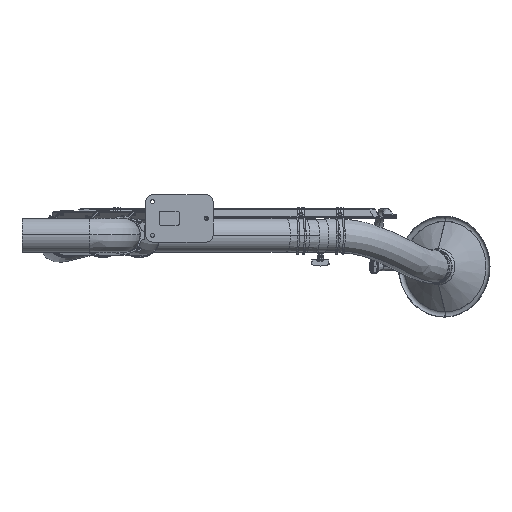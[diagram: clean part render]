
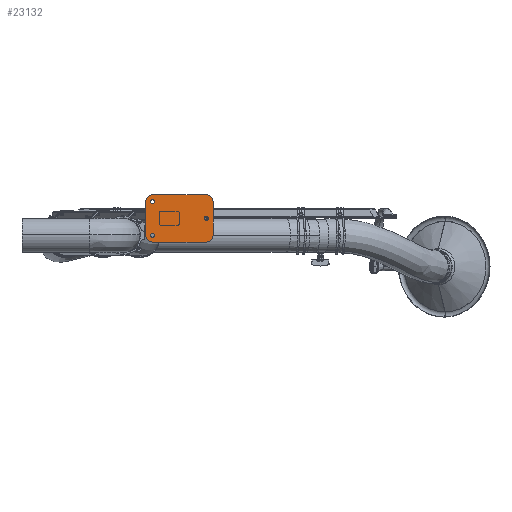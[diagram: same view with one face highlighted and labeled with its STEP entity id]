
A CAD part, left-side view. The second image highlights one B-rep face of the part: STEP entity #23132.
In plain terms, the highlighted planar face has unit normal (-1, 0, 0).
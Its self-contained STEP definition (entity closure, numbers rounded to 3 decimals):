
#22066=CARTESIAN_POINT('',(-400.,50.15,50.));
#22067=DIRECTION('',(-1.,0.,0.));
#22068=DIRECTION('',(0.,0.,1.));
#22069=AXIS2_PLACEMENT_3D('',#22066,#22067,#22068);
#22074=DIRECTION('',(0.,1.,0.));
#22075=VECTOR('',#22074,160.);
#22076=CARTESIAN_POINT('',(-400.,-109.85,70.));
#22077=LINE('',#22076,#22075);
#22081=CARTESIAN_POINT('',(-400.,-109.85,50.));
#22082=DIRECTION('',(-1.,0.,0.));
#22083=DIRECTION('',(0.,-1.,0.));
#22084=AXIS2_PLACEMENT_3D('',#22081,#22082,#22083);
#22089=DIRECTION('',(0.,0.,1.));
#22090=VECTOR('',#22089,100.);
#22091=CARTESIAN_POINT('',(-400.,-129.85,-50.));
#22092=LINE('',#22091,#22090);
#22096=CARTESIAN_POINT('',(-400.,-109.85,-50.));
#22097=DIRECTION('',(-1.,0.,0.));
#22098=DIRECTION('',(0.,0.,-1.));
#22099=AXIS2_PLACEMENT_3D('',#22096,#22097,#22098);
#22104=DIRECTION('',(0.,-1.,0.));
#22105=VECTOR('',#22104,160.);
#22106=CARTESIAN_POINT('',(-400.,50.15,-70.));
#22107=LINE('',#22106,#22105);
#22111=CARTESIAN_POINT('',(-400.,50.15,-50.));
#22112=DIRECTION('',(-1.,0.,0.));
#22113=DIRECTION('',(0.,1.,0.));
#22114=AXIS2_PLACEMENT_3D('',#22111,#22112,#22113);
#22119=DIRECTION('',(0.,0.,-1.));
#22120=VECTOR('',#22119,100.);
#22121=CARTESIAN_POINT('',(-400.,70.15,50.));
#22122=LINE('',#22121,#22120);
#22126=CARTESIAN_POINT('',(-400.,-109.85,0.));
#22127=DIRECTION('',(1.,0.,0.));
#22128=DIRECTION('',(0.,0.,1.));
#22129=AXIS2_PLACEMENT_3D('',#22126,#22127,#22128);
#22134=CARTESIAN_POINT('',(-400.,-109.85,0.));
#22135=DIRECTION('',(1.,0.,0.));
#22136=DIRECTION('',(0.,0.,-1.));
#22137=AXIS2_PLACEMENT_3D('',#22134,#22135,#22136);
#22142=CARTESIAN_POINT('',(-400.,50.15,50.));
#22143=DIRECTION('',(1.,0.,0.));
#22144=DIRECTION('',(0.,0.,1.));
#22145=AXIS2_PLACEMENT_3D('',#22142,#22143,#22144);
#22150=CARTESIAN_POINT('',(-400.,50.15,50.));
#22151=DIRECTION('',(1.,0.,0.));
#22152=DIRECTION('',(0.,0.,-1.));
#22153=AXIS2_PLACEMENT_3D('',#22150,#22151,#22152);
#22158=CARTESIAN_POINT('',(-400.,50.15,-50.));
#22159=DIRECTION('',(1.,0.,0.));
#22160=DIRECTION('',(0.,0.,1.));
#22161=AXIS2_PLACEMENT_3D('',#22158,#22159,#22160);
#22166=CARTESIAN_POINT('',(-400.,50.15,-50.));
#22167=DIRECTION('',(1.,0.,0.));
#22168=DIRECTION('',(0.,0.,-1.));
#22169=AXIS2_PLACEMENT_3D('',#22166,#22167,#22168);
#22551=CARTESIAN_POINT('',(-400.,50.15,-44.));
#22552=CARTESIAN_POINT('',(-400.,50.15,-56.));
#22553=VERTEX_POINT('',#22551);
#22554=VERTEX_POINT('',#22552);
#22555=CARTESIAN_POINT('',(-400.,50.15,56.));
#22556=CARTESIAN_POINT('',(-400.,50.15,44.));
#22557=VERTEX_POINT('',#22555);
#22558=VERTEX_POINT('',#22556);
#22559=CARTESIAN_POINT('',(-400.,-109.85,6.));
#22560=CARTESIAN_POINT('',(-400.,-109.85,-6.));
#22561=VERTEX_POINT('',#22559);
#22562=VERTEX_POINT('',#22560);
#22563=CARTESIAN_POINT('',(-400.,50.15,70.));
#22564=CARTESIAN_POINT('',(-400.,70.15,50.));
#22565=VERTEX_POINT('',#22563);
#22566=VERTEX_POINT('',#22564);
#22567=CARTESIAN_POINT('',(-400.,70.15,-50.));
#22568=VERTEX_POINT('',#22567);
#22569=CARTESIAN_POINT('',(-400.,50.15,-70.));
#22570=VERTEX_POINT('',#22569);
#22571=CARTESIAN_POINT('',(-400.,-109.85,-70.));
#22572=VERTEX_POINT('',#22571);
#22573=CARTESIAN_POINT('',(-400.,-129.85,-50.));
#22574=VERTEX_POINT('',#22573);
#22575=CARTESIAN_POINT('',(-400.,-129.85,50.));
#22576=VERTEX_POINT('',#22575);
#22577=CARTESIAN_POINT('',(-400.,-109.85,70.));
#22578=VERTEX_POINT('',#22577);
#23092=CARTESIAN_POINT('',(-400.,0.,-25.));
#23093=DIRECTION('',(-1.,0.,0.));
#23094=DIRECTION('',(0.,0.,1.));
#23095=AXIS2_PLACEMENT_3D('',#23092,#23093,#23094);
#23096=PLANE('',#23095);
#23097=ORIENTED_EDGE('',*,*,#23082,.F.);
#23099=ORIENTED_EDGE('',*,*,#23098,.F.);
#23101=ORIENTED_EDGE('',*,*,#23100,.F.);
#23103=ORIENTED_EDGE('',*,*,#23102,.F.);
#23105=ORIENTED_EDGE('',*,*,#23104,.F.);
#23107=ORIENTED_EDGE('',*,*,#23106,.F.);
#23109=ORIENTED_EDGE('',*,*,#23108,.F.);
#23111=ORIENTED_EDGE('',*,*,#23110,.F.);
#23112=EDGE_LOOP('',(#23097,#23099,#23101,#23103,#23105,#23107,#23109,#23111));
#23113=FACE_OUTER_BOUND('',#23112,.F.);
#23115=ORIENTED_EDGE('',*,*,#23114,.F.);
#23117=ORIENTED_EDGE('',*,*,#23116,.F.);
#23118=EDGE_LOOP('',(#23115,#23117));
#23119=FACE_BOUND('',#23118,.F.);
#23121=ORIENTED_EDGE('',*,*,#23120,.F.);
#23123=ORIENTED_EDGE('',*,*,#23122,.F.);
#23124=EDGE_LOOP('',(#23121,#23123));
#23125=FACE_BOUND('',#23124,.F.);
#23127=ORIENTED_EDGE('',*,*,#23126,.F.);
#23129=ORIENTED_EDGE('',*,*,#23128,.F.);
#23130=EDGE_LOOP('',(#23127,#23129));
#23131=FACE_BOUND('',#23130,.F.);
#22070=CIRCLE('',#22069,20.);
#22085=CIRCLE('',#22084,20.);
#22100=CIRCLE('',#22099,20.);
#22115=CIRCLE('',#22114,20.);
#22130=CIRCLE('',#22129,6.);
#22138=CIRCLE('',#22137,6.);
#22146=CIRCLE('',#22145,6.);
#22154=CIRCLE('',#22153,6.);
#22162=CIRCLE('',#22161,6.);
#22170=CIRCLE('',#22169,6.);
#23082=EDGE_CURVE('',#22565,#22566,#22070,.T.);
#23098=EDGE_CURVE('',#22578,#22565,#22077,.T.);
#23100=EDGE_CURVE('',#22576,#22578,#22085,.T.);
#23102=EDGE_CURVE('',#22574,#22576,#22092,.T.);
#23104=EDGE_CURVE('',#22572,#22574,#22100,.T.);
#23106=EDGE_CURVE('',#22570,#22572,#22107,.T.);
#23108=EDGE_CURVE('',#22568,#22570,#22115,.T.);
#23110=EDGE_CURVE('',#22566,#22568,#22122,.T.);
#23114=EDGE_CURVE('',#22561,#22562,#22130,.T.);
#23116=EDGE_CURVE('',#22562,#22561,#22138,.T.);
#23120=EDGE_CURVE('',#22557,#22558,#22146,.T.);
#23122=EDGE_CURVE('',#22558,#22557,#22154,.T.);
#23126=EDGE_CURVE('',#22553,#22554,#22162,.T.);
#23128=EDGE_CURVE('',#22554,#22553,#22170,.T.);
#23132=ADVANCED_FACE('',(#23113,#23119,#23125,#23131),#23096,.T.);
